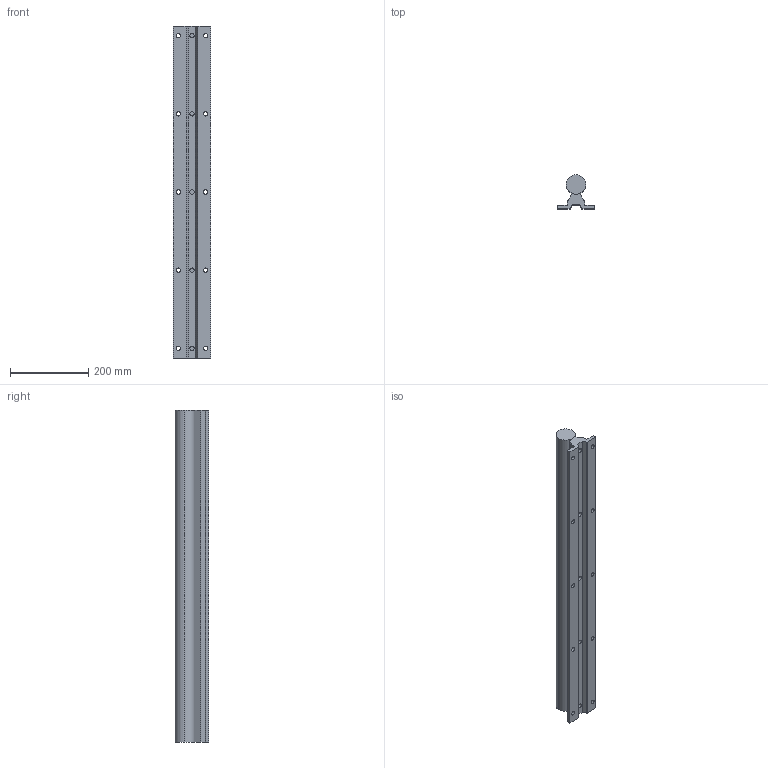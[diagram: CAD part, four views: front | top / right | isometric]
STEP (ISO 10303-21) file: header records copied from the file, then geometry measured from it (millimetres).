
FILE_DESCRIPTION (( 'STEP AP214' ), '1' );
FILE_NAME ('SBR50-850.STEP', '2025-09-17T14:42:59', ( '' ), ( '' ), 'SwSTEP 2.0', 'SolidWorks 2019', '' );
FILE_SCHEMA (( 'AUTOMOTIVE_DESIGN' ));
Length unit declared in the file: millimetre
Products named in the file (1): SBR50-850
Bounding box: 95 x 87 x 850 mm (x, y, z)
Volume: 3040032.2 mm3; surface area: 371432.5 mm2
Topology: 2 solids, 2 shells, 70 faces, 183 edges, 122 vertices
Faces by surface type: cylinder 44, plane 26
Entity records: 2278 total; most frequent: DIRECTION 413, CARTESIAN_POINT 376, ORIENTED_EDGE 366, EDGE_CURVE 183, AXIS2_PLACEMENT_3D 159, VERTEX_POINT 122, VECTOR 95, LINE 95
